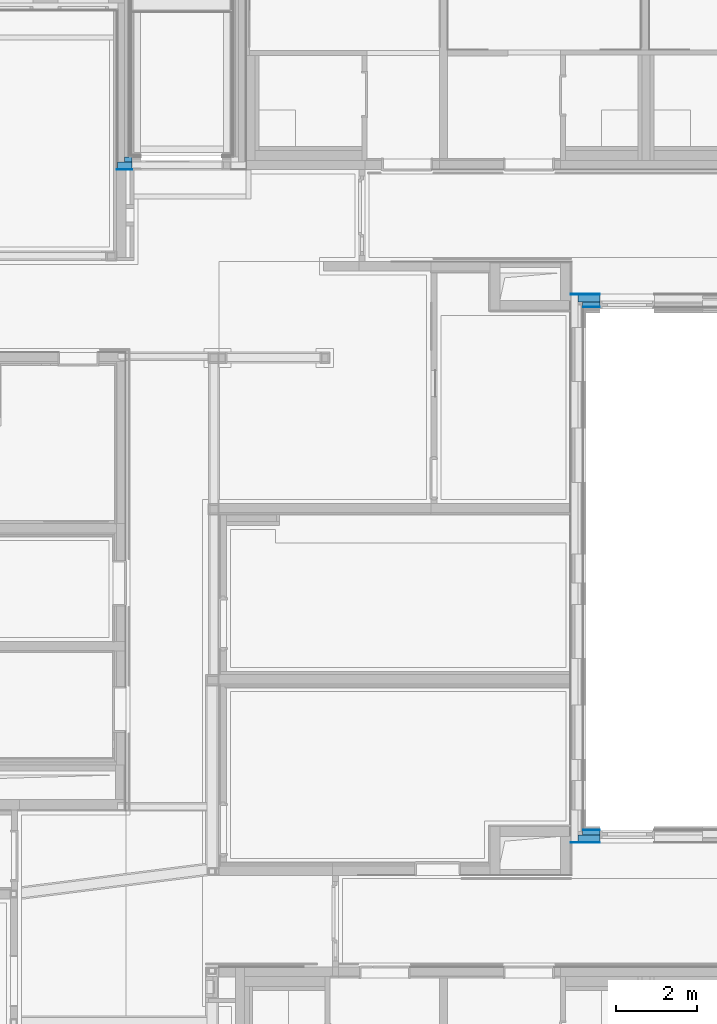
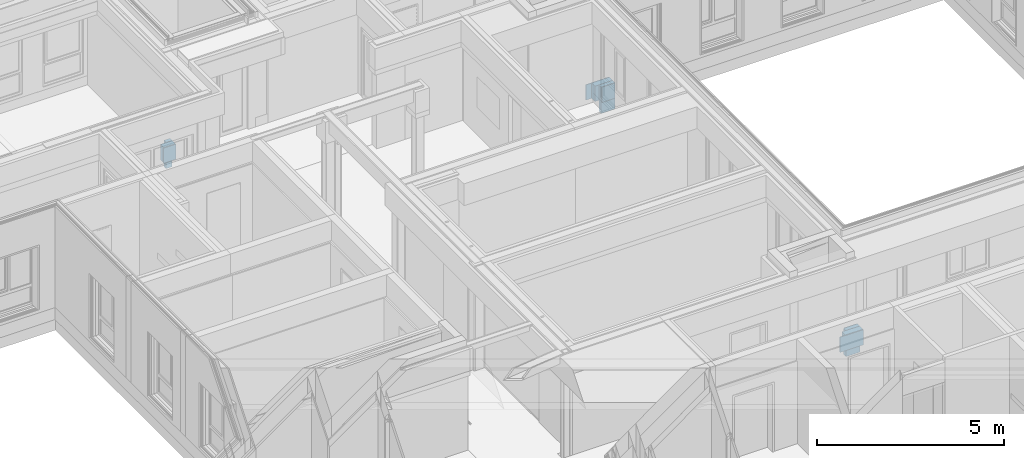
# One storey, part 64 of 207: 11 walls.
"""IFC4 building model written with IfcOpenShell, lengths in metres."""

from ifc_helpers import new_model, entity, si_unit, converted_unit, derived_unit, frame, frame_2d, origin, origin_with_axes, place, context, subcontext, project, spatial, rectangle, extrude, material, element, save


model = new_model("IFC4")

# Units and contexts
model_context = context("Model", 3, precision=1e-05, world=origin())
body_context = subcontext(model_context, "Body", "Model", "MODEL_VIEW")
ifc_project = project(units=[si_unit("LENGTHUNIT", "METRE"), si_unit("AREAUNIT", "SQUARE_METRE"), si_unit("VOLUMEUNIT", "CUBIC_METRE"), si_unit("MASSUNIT", "GRAM", prefix="KILO"), converted_unit("PLANEANGLEUNIT", "DEGREE", entity("IfcPlaneAngleMeasure", 0.0174532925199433), si_unit("PLANEANGLEUNIT", "RADIAN"), dimensions=[0, 0, 0, 0, 0, 0, 0]), derived_unit("THERMALTRANSMITTANCEUNIT", [(si_unit("POWERUNIT", "WATT"), 1), (si_unit("THERMODYNAMICTEMPERATUREUNIT", "KELVIN"), -1), (si_unit("LENGTHUNIT", "METRE"), -2)]), derived_unit("VOLUMETRICFLOWRATEUNIT", [(si_unit("LENGTHUNIT", "METRE"), 3), (converted_unit("TIMEUNIT", "hour", entity("IfcTimeMeasure", 3600.0), si_unit("TIMEUNIT", "SECOND"), dimensions=[0, 0, 1, 0, 0, 0, 0]), -1), (si_unit("LENGTHUNIT", "METRE"), -1)])], contexts=[model_context])

# Site, building, storey
site_placement = place(None, origin())
site = spatial("IfcSite", under=ifc_project, at=site_placement, Name="Psychiatrie Neubau Wunstorf", CompositionType="ELEMENT")
building_placement = place(site_placement, origin())
building = spatial("IfcBuilding", under=site, at=building_placement, Name="Neubau H2 Stationsgebäude", CompositionType="ELEMENT")
storey_placement = place(building_placement, frame((0.0, 0.0, -0.2)))
storey = spatial("IfcBuildingStorey", under=building, at=storey_placement, Name="H2 Ebene 0", CompositionType="ELEMENT", Elevation=-0.2)

# Walls
ifc_material_1 = material(Name="WA-LB")
wall_1_placement = place(storey_placement, frame((67.889, 25.1140036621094, 0.0)))
element("IfcWall", 1, at=wall_1_placement, inside=storey, material=ifc_material_1, context=body_context, shape_type="SweptSolid", body=[
    extrude(rectangle(XDim=0.381, YDim=0.0210000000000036, at=frame_2d((0.1905, 0.0105000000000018), x_axis=(1.0, 0.0))), origin_with_axes(), (0.0, 0.0, 1.0), 0.5),
])
ifc_material_2 = material(Name="WA-STB")
wall_2_placement = place(storey_placement, frame((67.91, 25.1350036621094, 0.0)))
element("IfcWall", 2, at=wall_2_placement, inside=storey, material=ifc_material_2, context=body_context, shape_type="SweptSolid", body=[
    extrude(rectangle(XDim=0.36, YDim=0.175, at=frame_2d((0.18, 0.0875), x_axis=(1.0, 0.0))), origin_with_axes(), (0.0, 0.0, 1.0), 0.5),
])
ifc_material_3 = material(Name="WA-DE")
wall_3_placement = place(storey_placement, frame((68.085, 25.3100036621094, -0.36)))
element("IfcWall", 3, at=wall_3_placement, inside=storey, material=ifc_material_3, context=body_context, shape_type="SweptSolid", body=[
    extrude(rectangle(XDim=0.185, YDim=0.12, at=frame_2d((0.0925, 0.06), x_axis=(1.0, 0.0))), origin_with_axes(), (0.0, 0.0, 1.0), 0.86),
])
ifc_material_4 = material(Name="WA-LB")
wall_4_placement = place(storey_placement, frame((79.881, 22.036, 0.0), z_axis=(0.0, 0.0, 1.0), x_axis=(-1.0, 0.0, 0.0)))
element("IfcWall", 4, at=wall_4_placement, inside=storey, material=ifc_material_4, context=body_context, shape_type="SweptSolid", body=[
    extrude(rectangle(XDim=0.721, YDim=0.021, at=frame_2d((0.3605, 0.0105), x_axis=(1.0, 0.0))), origin_with_axes(), (0.0, 0.0, 1.0), 0.5),
])
ifc_material_5 = material(Name="WA-STB")
wall_5_placement = place(storey_placement, frame((79.881, 22.015, 0.0), z_axis=(0.0, 0.0, 1.0), x_axis=(-1.0, 0.0, 0.0)))
element("IfcWall", 5, at=wall_5_placement, inside=storey, material=ifc_material_5, context=body_context, shape_type="SweptSolid", body=[
    extrude(rectangle(XDim=0.546, YDim=0.175, at=frame_2d((0.273, 0.0875), x_axis=(1.0, 0.0))), origin_with_axes(), (0.0, 0.0, 1.0), 0.5),
])
ifc_material_6 = material(Name="WA-DE")
wall_6_placement = place(storey_placement, frame((79.881, 21.84, -0.36), z_axis=(0.0, 0.0, 1.0), x_axis=(-1.0, 0.0, 0.0)))
element("IfcWall", 6, at=wall_6_placement, inside=storey, material=ifc_material_6, context=body_context, shape_type="SweptSolid", body=[
    extrude(rectangle(XDim=0.426, YDim=0.12, at=frame_2d((0.213, 0.06), x_axis=(1.0, 0.0))), origin_with_axes(), (0.0, 0.0, 1.0), 0.86),
])
ifc_material_7 = material(Name="WA-LB")
wall_7_placement = place(storey_placement, frame((79.881, 21.72, 0.0), z_axis=(0.0, 0.0, 1.0), x_axis=(-1.0, 0.0, 0.0)))
element("IfcWall", 7, at=wall_7_placement, inside=storey, material=ifc_material_7, context=body_context, shape_type="SweptSolid", body=[
    extrude(rectangle(XDim=0.411, YDim=0.015, at=frame_2d((0.2055, 0.0075), x_axis=(1.0, 0.0))), origin_with_axes(), (0.0, 0.0, 1.0), 0.5),
])
ifc_material_8 = material(Name="WA-LB")
wall_8_placement = place(storey_placement, frame((79.16, 8.41400000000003, 0.0)))
element("IfcWall", 8, at=wall_8_placement, inside=storey, material=ifc_material_8, context=body_context, shape_type="SweptSolid", body=[
    extrude(rectangle(XDim=0.721000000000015, YDim=0.021, at=frame_2d((0.360500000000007, 0.0105), x_axis=(1.0, 0.0))), origin_with_axes(), (0.0, 0.0, 1.0), 0.5),
])
ifc_material_9 = material(Name="WA-STB")
wall_9_placement = place(storey_placement, frame((79.335, 8.43500000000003, 0.0)))
element("IfcWall", 9, at=wall_9_placement, inside=storey, material=ifc_material_9, context=body_context, shape_type="SweptSolid", body=[
    extrude(rectangle(XDim=0.546000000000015, YDim=0.175, at=frame_2d((0.273000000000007, 0.0875), x_axis=(1.0, 0.0))), origin_with_axes(), (0.0, 0.0, 1.0), 0.5),
])
ifc_material_10 = material(Name="WA-DE")
wall_10_placement = place(storey_placement, frame((79.455, 8.61000000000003, -0.36)))
element("IfcWall", 10, at=wall_10_placement, inside=storey, material=ifc_material_10, context=body_context, shape_type="SweptSolid", body=[
    extrude(rectangle(XDim=0.426000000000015, YDim=0.12, at=frame_2d((0.213000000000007, 0.06), x_axis=(1.0, 0.0))), origin_with_axes(), (0.0, 0.0, 1.0), 0.86),
])
ifc_material_11 = material(Name="WA-LB")
wall_11_placement = place(storey_placement, frame((79.47, 8.73000000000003, 0.0)))
element("IfcWall", 11, at=wall_11_placement, inside=storey, material=ifc_material_11, context=body_context, shape_type="SweptSolid", body=[
    extrude(rectangle(XDim=0.411000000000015, YDim=0.015, at=frame_2d((0.205500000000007, 0.0075), x_axis=(1.0, 0.0))), origin_with_axes(), (0.0, 0.0, 1.0), 0.5),
])

save(model, "model.ifc")
